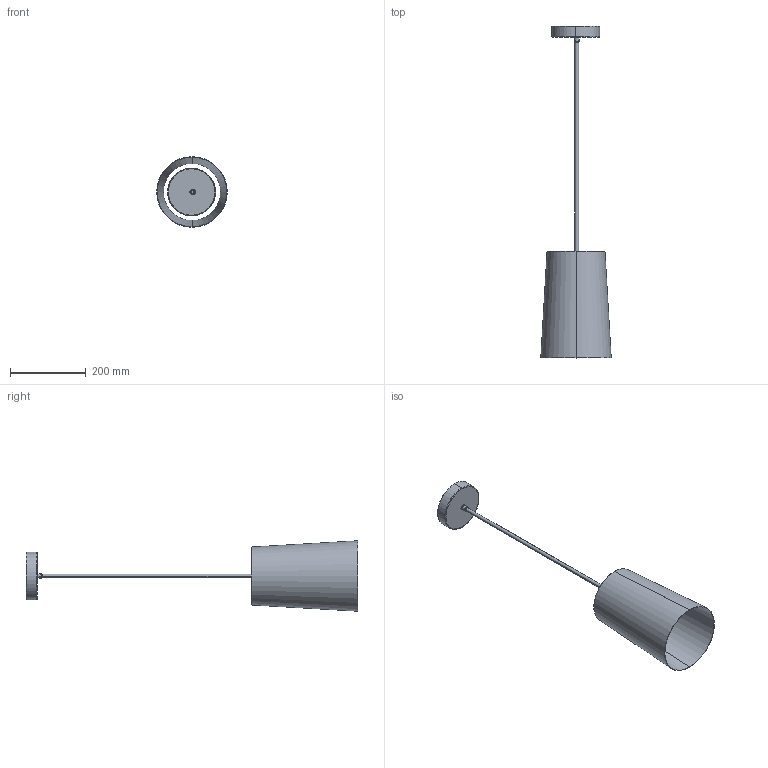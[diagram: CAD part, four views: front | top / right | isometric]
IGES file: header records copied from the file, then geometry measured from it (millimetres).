
Start section: SolidWorks IGES file using analytic representation for surfaces
Global section: file name: X:\stage\TITE 3\TITE 3.IGS; native system: SolidWorks 2006 by SolidWorks Corporation; preprocessor: SolidWorks 2006 by SolidWorks Corporation; author: stagetec; date: 060920.164249; units: millimetre
Bounding box: 185.4 x 873.62 x 185.4 mm (x, y, z)
Volume: 243019.1 mm3; surface area: 406396.6 mm2
Topology: 4 solids, 4 shells, 115 faces, 286 edges, 182 vertices
Faces by surface type: revolution 91, plane 24
